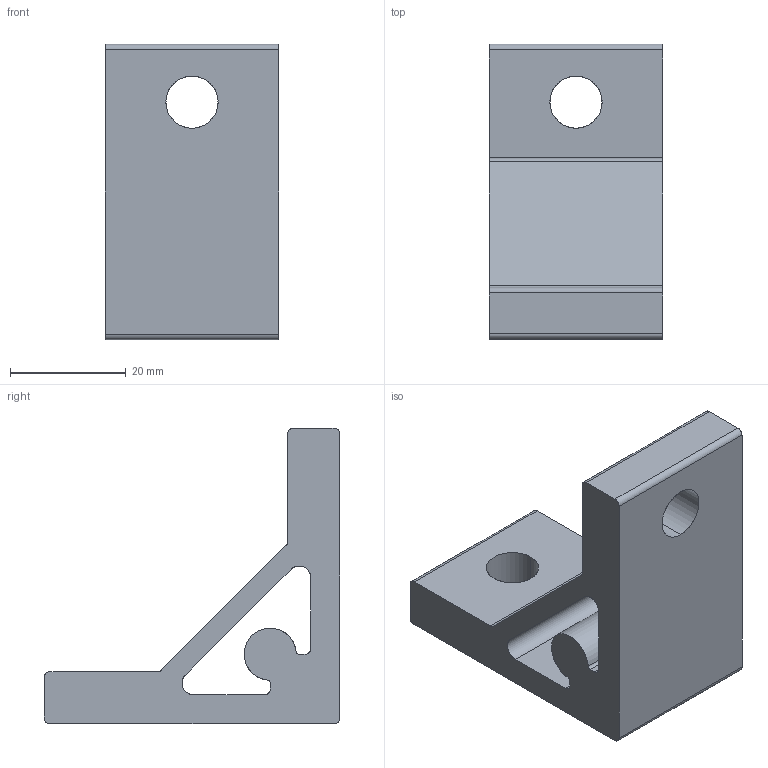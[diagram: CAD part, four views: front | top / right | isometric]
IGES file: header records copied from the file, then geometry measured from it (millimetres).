
Start section: SolidWorks IGES file using analytic representation for surfaces
Global section: file name: C:\Documents and Settings\Administrator\デスクトップ\指定保存後4回目\SolidWorks\SF\SF40・45\Bracket\ハードブラケットL\SFJ-N05.IGS,41HSolidWorks 2006 by; native system: SolidWorks Corporation; preprocessor: SolidWorks 2006 by SolidWorks Corporation; author: Administrator; date: 061215.175856; units: millimetre
Bounding box: 30 x 51 x 51 mm (x, y, z)
Surface area: 10261.7 mm2 (no closed solid volume)
Topology: 0 solids, 0 shells, 32 faces, 512 edges, 512 vertices
Faces by surface type: revolution 18, bspline 14
